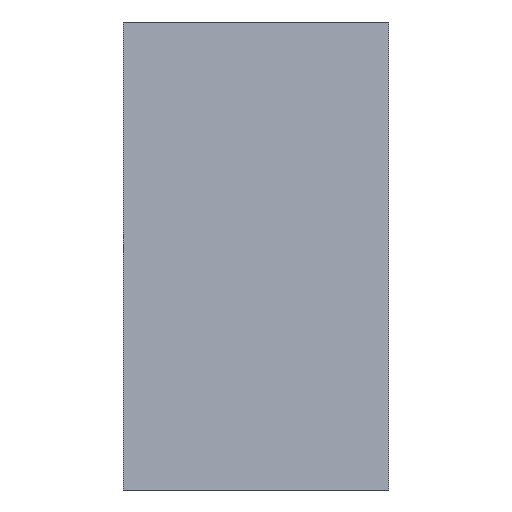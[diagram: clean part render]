
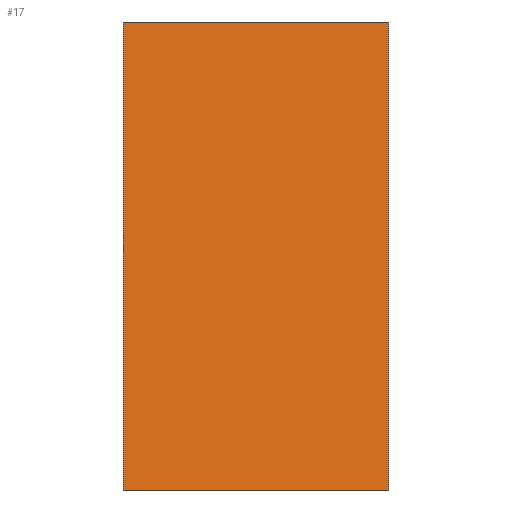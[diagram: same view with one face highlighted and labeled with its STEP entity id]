
A CAD part, front view. The second image highlights one B-rep face of the part: STEP entity #17.
In plain terms, the highlighted planar face has unit normal (0, -0.995, 0.104).
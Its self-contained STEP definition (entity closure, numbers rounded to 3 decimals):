
#17 = ADVANCED_FACE('',(#18),#32,.F.);
#18 = FACE_BOUND('',#19,.T.);
#19 = EDGE_LOOP('',(#20,#55,#83,#111));
#20 = ORIENTED_EDGE('',*,*,#21,.F.);
#21 = EDGE_CURVE('',#22,#24,#26,.T.);
#22 = VERTEX_POINT('',#23);
#23 = CARTESIAN_POINT('',(1.,-8.348,-35.25));
#24 = VERTEX_POINT('',#25);
#25 = CARTESIAN_POINT('',(1.,-4.643,0.));
#26 = SURFACE_CURVE('',#27,(#31,#43),.PCURVE_S1.);
#27 = LINE('',#28,#29);
#28 = CARTESIAN_POINT('',(1.,-12.,-70.));
#29 = VECTOR('',#30,1.);
#30 = DIRECTION('',(-0.,0.105,0.995));
#31 = PCURVE('',#32,#37);
#32 = PLANE('',#33);
#33 = AXIS2_PLACEMENT_3D('',#34,#35,#36);
#34 = CARTESIAN_POINT('',(1.,-12.,-70.));
#35 = DIRECTION('',(0.,0.995,-0.105));
#36 = DIRECTION('',(0.,-0.105,-0.995));
#37 = DEFINITIONAL_REPRESENTATION('',(#38),#42);
#38 = LINE('',#39,#40);
#39 = CARTESIAN_POINT('',(-0.,0.));
#40 = VECTOR('',#41,1.);
#41 = DIRECTION('',(-1.,0.));
#42 = ( GEOMETRIC_REPRESENTATION_CONTEXT(2) 
PARAMETRIC_REPRESENTATION_CONTEXT() REPRESENTATION_CONTEXT('2D SPACE',''
  ) );
#43 = PCURVE('',#44,#49);
#44 = PLANE('',#45);
#45 = AXIS2_PLACEMENT_3D('',#46,#47,#48);
#46 = CARTESIAN_POINT('',(1.,-5.691,-29.));
#47 = DIRECTION('',(1.,-0.,-0.));
#48 = DIRECTION('',(0.,0.,-1.));
#49 = DEFINITIONAL_REPRESENTATION('',(#50),#54);
#50 = LINE('',#51,#52);
#51 = CARTESIAN_POINT('',(41.,-6.309));
#52 = VECTOR('',#53,1.);
#53 = DIRECTION('',(-0.995,0.105));
#54 = ( GEOMETRIC_REPRESENTATION_CONTEXT(2) 
PARAMETRIC_REPRESENTATION_CONTEXT() REPRESENTATION_CONTEXT('2D SPACE',''
  ) );
#55 = ORIENTED_EDGE('',*,*,#56,.F.);
#56 = EDGE_CURVE('',#57,#22,#59,.T.);
#57 = VERTEX_POINT('',#58);
#58 = CARTESIAN_POINT('',(21.,-8.348,-35.25));
#59 = SURFACE_CURVE('',#60,(#64,#71),.PCURVE_S1.);
#60 = LINE('',#61,#62);
#61 = CARTESIAN_POINT('',(-199.5,-8.348,-35.25));
#62 = VECTOR('',#63,1.);
#63 = DIRECTION('',(-1.,-0.,0.));
#64 = PCURVE('',#32,#65);
#65 = DEFINITIONAL_REPRESENTATION('',(#66),#70);
#66 = LINE('',#67,#68);
#67 = CARTESIAN_POINT('',(-34.941,200.5));
#68 = VECTOR('',#69,1.);
#69 = DIRECTION('',(-0.,1.));
#70 = ( GEOMETRIC_REPRESENTATION_CONTEXT(2) 
PARAMETRIC_REPRESENTATION_CONTEXT() REPRESENTATION_CONTEXT('2D SPACE',''
  ) );
#71 = PCURVE('',#72,#77);
#72 = PLANE('',#73);
#73 = AXIS2_PLACEMENT_3D('',#74,#75,#76);
#74 = CARTESIAN_POINT('',(-400.,388.,-35.25));
#75 = DIRECTION('',(0.,0.,1.));
#76 = DIRECTION('',(-1.,-0.,0.));
#77 = DEFINITIONAL_REPRESENTATION('',(#78),#82);
#78 = LINE('',#79,#80);
#79 = CARTESIAN_POINT('',(-200.5,396.348));
#80 = VECTOR('',#81,1.);
#81 = DIRECTION('',(1.,-0.));
#82 = ( GEOMETRIC_REPRESENTATION_CONTEXT(2) 
PARAMETRIC_REPRESENTATION_CONTEXT() REPRESENTATION_CONTEXT('2D SPACE',''
  ) );
#83 = ORIENTED_EDGE('',*,*,#84,.T.);
#84 = EDGE_CURVE('',#57,#85,#87,.T.);
#85 = VERTEX_POINT('',#86);
#86 = CARTESIAN_POINT('',(21.,-4.643,0.));
#87 = SURFACE_CURVE('',#88,(#92,#99),.PCURVE_S1.);
#88 = LINE('',#89,#90);
#89 = CARTESIAN_POINT('',(21.,-12.,-70.));
#90 = VECTOR('',#91,1.);
#91 = DIRECTION('',(-0.,0.105,0.995));
#92 = PCURVE('',#32,#93);
#93 = DEFINITIONAL_REPRESENTATION('',(#94),#98);
#94 = LINE('',#95,#96);
#95 = CARTESIAN_POINT('',(-0.,-20.));
#96 = VECTOR('',#97,1.);
#97 = DIRECTION('',(-1.,0.));
#98 = ( GEOMETRIC_REPRESENTATION_CONTEXT(2) 
PARAMETRIC_REPRESENTATION_CONTEXT() REPRESENTATION_CONTEXT('2D SPACE',''
  ) );
#99 = PCURVE('',#100,#105);
#100 = PLANE('',#101);
#101 = AXIS2_PLACEMENT_3D('',#102,#103,#104);
#102 = CARTESIAN_POINT('',(21.,-5.691,-29.));
#103 = DIRECTION('',(1.,-0.,-0.));
#104 = DIRECTION('',(0.,0.,-1.));
#105 = DEFINITIONAL_REPRESENTATION('',(#106),#110);
#106 = LINE('',#107,#108);
#107 = CARTESIAN_POINT('',(41.,-6.309));
#108 = VECTOR('',#109,1.);
#109 = DIRECTION('',(-0.995,0.105));
#110 = ( GEOMETRIC_REPRESENTATION_CONTEXT(2) 
PARAMETRIC_REPRESENTATION_CONTEXT() REPRESENTATION_CONTEXT('2D SPACE',''
  ) );
#111 = ORIENTED_EDGE('',*,*,#112,.T.);
#112 = EDGE_CURVE('',#85,#24,#113,.T.);
#113 = SURFACE_CURVE('',#114,(#118,#125),.PCURVE_S1.);
#114 = LINE('',#115,#116);
#115 = CARTESIAN_POINT('',(-199.5,-4.643,0.));
#116 = VECTOR('',#117,1.);
#117 = DIRECTION('',(-1.,-0.,0.));
#118 = PCURVE('',#32,#119);
#119 = DEFINITIONAL_REPRESENTATION('',(#120),#124);
#120 = LINE('',#121,#122);
#121 = CARTESIAN_POINT('',(-70.386,200.5));
#122 = VECTOR('',#123,1.);
#123 = DIRECTION('',(-0.,1.));
#124 = ( GEOMETRIC_REPRESENTATION_CONTEXT(2) 
PARAMETRIC_REPRESENTATION_CONTEXT() REPRESENTATION_CONTEXT('2D SPACE',''
  ) );
#125 = PCURVE('',#126,#131);
#126 = PLANE('',#127);
#127 = AXIS2_PLACEMENT_3D('',#128,#129,#130);
#128 = CARTESIAN_POINT('',(-400.,388.,0.));
#129 = DIRECTION('',(0.,0.,1.));
#130 = DIRECTION('',(-1.,-0.,0.));
#131 = DEFINITIONAL_REPRESENTATION('',(#132),#136);
#132 = LINE('',#133,#134);
#133 = CARTESIAN_POINT('',(-200.5,392.643));
#134 = VECTOR('',#135,1.);
#135 = DIRECTION('',(1.,-0.));
#136 = ( GEOMETRIC_REPRESENTATION_CONTEXT(2) 
PARAMETRIC_REPRESENTATION_CONTEXT() REPRESENTATION_CONTEXT('2D SPACE',''
  ) );
